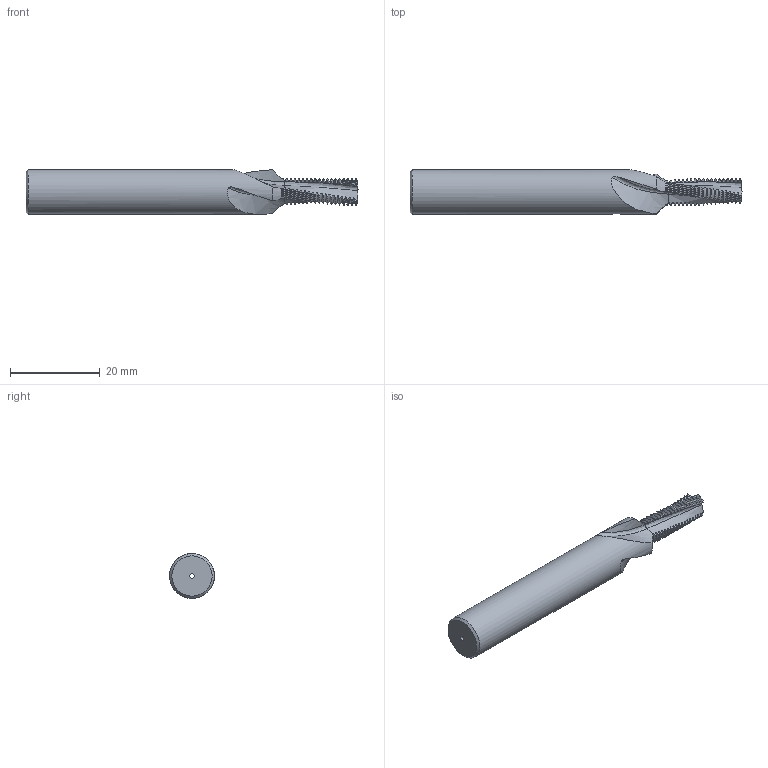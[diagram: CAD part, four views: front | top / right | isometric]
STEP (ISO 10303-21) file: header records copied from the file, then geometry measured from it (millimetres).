
FILE_DESCRIPTION(/* description */ (''),/* implementation_level */ '2;1');
FILE_NAME(/* name */ '00036402-STEP',/* time_stamp */ '2024-02-20T07:29:06+01:00',/* author */ (''),/* organization */ (''),/* preprocessor_version */ 'ST-DEVELOPER v16.5',/* originating_system */ 'HiCAD 2017 2201.0 Build 268',/* authorisation */ '');
FILE_SCHEMA (('AUTOMOTIVE_DESIGN { 1 0 10303 214 1 1 1 1 }'));
Length unit declared in the file: millimetre
Products named in the file (2): Root; ROTATIONSTEIL_0
Assembly tree (1 placements, depth 2):
  Root
    ROTATIONSTEIL_0
Bounding box: 74 x 10 x 10 mm (x, y, z)
Volume: 4306.2 mm3; surface area: 2518.1 mm2
Topology: 1 solids, 1 shells, 254 faces, 863 edges, 611 vertices
Faces by surface type: cone 115, torus 114, bspline 18, cylinder 5, plane 2
Full cylindrical faces by diameter (mm): 1 x1, 10 x1
Entity records: 29717 total; most frequent: CARTESIAN_POINT 15272, PRESENTATION_STYLE_ASSIGNMENT 1713, COLOUR_RGB 1713, DRAUGHTING_PRE_DEFINED_CURVE_FONT 1712, CURVE_STYLE 1712, OVER_RIDING_STYLED_ITEM 1712, ORIENTED_EDGE 1712, DIRECTION 952
